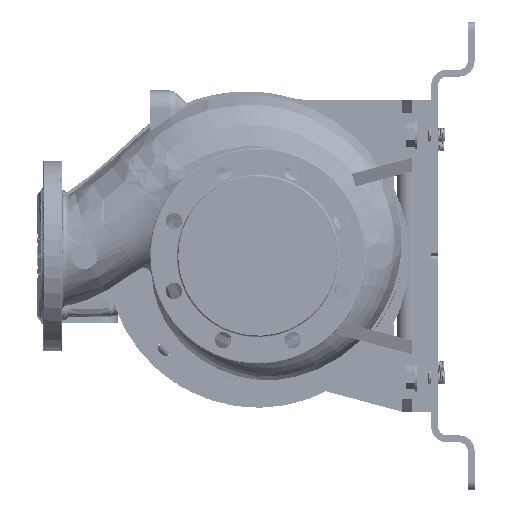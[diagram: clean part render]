
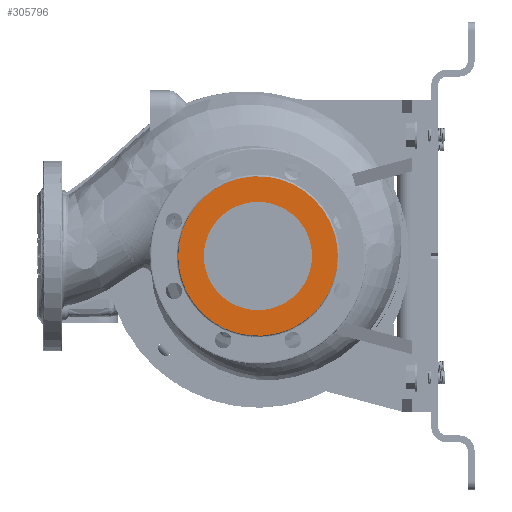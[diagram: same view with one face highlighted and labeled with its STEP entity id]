
A CAD part, left-side view. The second image highlights one B-rep face of the part: STEP entity #305796.
In plain terms, the highlighted planar face has unit normal (-1, 0, 0).
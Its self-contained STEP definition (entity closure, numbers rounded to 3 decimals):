
#2594 = CARTESIAN_POINT ( 'NONE',  ( -125., 32.548, -86.419 ) ) ;
#2649 = CARTESIAN_POINT ( 'NONE',  ( -125., -85.545, 35.434 ) ) ;
#5773 = CARTESIAN_POINT ( 'NONE',  ( -125., 91.704, -9.033 ) ) ;
#5817 = CARTESIAN_POINT ( 'NONE',  ( -125., 0., 0. ) ) ;
#9015 = DIRECTION ( 'NONE',  ( 0., 0., -1. ) ) ;
#9743 = ORIENTED_EDGE ( 'NONE', *, *, #303120, .F. ) ;
#17618 = EDGE_CURVE ( 'NONE', #166710, #287542, #93414, .T. ) ;
#20827 = AXIS2_PLACEMENT_3D ( 'NONE', #5817, #128923, #106509 ) ;
#21920 = DIRECTION ( 'NONE',  ( 0., 0., 1. ) ) ;
#23501 = CARTESIAN_POINT ( 'NONE',  ( -125., 0.001, 92.593 ) ) ;
#35002 = AXIS2_PLACEMENT_3D ( 'NONE', #240938, #141918, #21920 ) ;
#44374 = CARTESIAN_POINT ( 'NONE',  ( -125., 91.704, 9.033 ) ) ;
#47490 = CARTESIAN_POINT ( 'NONE',  ( -125., 74.163, 55.003 ) ) ;
#51617 = ORIENTED_EDGE ( 'NONE', *, *, #144566, .F. ) ;
#54878 = B_SPLINE_CURVE_WITH_KNOTS ( 'NONE', 3,
 ( #197581, #224789, #293746, #104850, #127329, #124186, #55375, #226350, #244035, #199157, #220051, #2594, #172126, #98551, #202302, #300088, #178385, #151311, #295370, #101687, #76180, #5773, #276028, #100125 ),
 .UNSPECIFIED., .F., .F.,
 ( 4, 1, 1, 1, 1, 1, 1, 1, 1, 1, 1, 1, 1, 1, 1, 1, 1, 1, 1, 1, 1, 4 ),
 ( 0., 0.018, 0.036, 0.054, 0.072, 0.091, 0.109, 0.127, 0.145, 0.163, 0.181, 0.19, 0.199, 0.208, 0.217, 0.231, 0.244, 0.254, 0.263, 0.272, 0.281, 0.29 ),
 .UNSPECIFIED. ) ;
#55375 = CARTESIAN_POINT ( 'NONE',  ( -125., -51.442, -76.988 ) ) ;
#55462 = FACE_OUTER_BOUND ( 'NONE', #236852, .T. ) ;
#65261 = CARTESIAN_POINT ( 'NONE',  ( -125., 92., 3.009 ) ) ;
#73077 = CARTESIAN_POINT ( 'NONE',  ( -125., 32.548, 86.419 ) ) ;
#76180 = CARTESIAN_POINT ( 'NONE',  ( -125., 90.377, -17.977 ) ) ;
#77803 = CARTESIAN_POINT ( 'NONE',  ( -125., 58.458, 71.231 ) ) ;
#93414 = B_SPLINE_CURVE_WITH_KNOTS ( 'NONE', 3,
 ( #186635, #65261, #44374, #170581, #316234, #103311, #97045, #47490, #197635, #77803, #200783, #298573, #73077, #266631, #23501, #169014, #199202, #145063, #221676, #295419, #2649, #242505, #218528, #292229 ),
 .UNSPECIFIED., .F., .F.,
 ( 4, 1, 1, 1, 1, 1, 1, 1, 1, 1, 1, 1, 1, 1, 1, 1, 1, 1, 1, 1, 1, 4 ),
 ( 0., 0.009, 0.018, 0.027, 0.036, 0.045, 0.059, 0.073, 0.082, 0.091, 0.1, 0.109, 0.127, 0.145, 0.163, 0.181, 0.199, 0.218, 0.236, 0.254, 0.272, 0.29 ),
 .UNSPECIFIED. ) ;
#97045 = CARTESIAN_POINT ( 'NONE',  ( -125., 80.624, 44.798 ) ) ;
#98551 = CARTESIAN_POINT ( 'NONE',  ( -125., 51.195, -76.618 ) ) ;
#100125 = CARTESIAN_POINT ( 'NONE',  ( -125., 92., 0. ) ) ;
#101687 = CARTESIAN_POINT ( 'NONE',  ( -125., 88.18, -26.749 ) ) ;
#103311 = CARTESIAN_POINT ( 'NONE',  ( -125., 85.133, 35.264 ) ) ;
#104850 = CARTESIAN_POINT ( 'NONE',  ( -125., -85.545, -35.434 ) ) ;
#106509 = DIRECTION ( 'NONE',  ( 0., 0., 1. ) ) ;
#124186 = CARTESIAN_POINT ( 'NONE',  ( -125., -65.473, -65.473 ) ) ;
#126227 = CARTESIAN_POINT ( 'NONE',  ( -125., 0., 62.5 ) ) ;
#127329 = CARTESIAN_POINT ( 'NONE',  ( -125., -76.988, -51.442 ) ) ;
#128134 = CIRCLE ( 'NONE', #20827, 62.5 ) ;
#128923 = DIRECTION ( 'NONE',  ( -1., 0., 0. ) ) ;
#141918 = DIRECTION ( 'NONE',  ( -1., 0., 0. ) ) ;
#144566 = EDGE_CURVE ( 'NONE', #287542, #166710, #54878, .T. ) ;
#145063 = CARTESIAN_POINT ( 'NONE',  ( -125., -51.442, 76.988 ) ) ;
#149792 = FACE_BOUND ( 'NONE', #249764, .T. ) ;
#151311 = CARTESIAN_POINT ( 'NONE',  ( -125., 80.624, -44.798 ) ) ;
#152992 = CARTESIAN_POINT ( 'NONE',  ( -125., -93.104, 93.203 ) ) ;
#166710 = VERTEX_POINT ( 'NONE', #298047 ) ;
#169014 = CARTESIAN_POINT ( 'NONE',  ( -125., -18.064, 90.814 ) ) ;
#170581 = CARTESIAN_POINT ( 'NONE',  ( -125., 90.377, 17.977 ) ) ;
#172126 = CARTESIAN_POINT ( 'NONE',  ( -125., 43.438, -81.267 ) ) ;
#178385 = CARTESIAN_POINT ( 'NONE',  ( -125., 74.163, -55.003 ) ) ;
#186635 = CARTESIAN_POINT ( 'NONE',  ( -125., 92., 0. ) ) ;
#197581 = CARTESIAN_POINT ( 'NONE',  ( -125., -92., 0. ) ) ;
#197635 = CARTESIAN_POINT ( 'NONE',  ( -125., 66.273, 64.149 ) ) ;
#199157 = CARTESIAN_POINT ( 'NONE',  ( -125., 0.001, -92.593 ) ) ;
#199202 = CARTESIAN_POINT ( 'NONE',  ( -125., -35.434, 85.545 ) ) ;
#200783 = CARTESIAN_POINT ( 'NONE',  ( -125., 51.195, 76.618 ) ) ;
#202302 = CARTESIAN_POINT ( 'NONE',  ( -125., 58.458, -71.231 ) ) ;
#203317 = CIRCLE ( 'NONE', #35002, 62.5 ) ;
#208377 = EDGE_CURVE ( 'NONE', #287265, #209400, #128134, .T. ) ;
#209400 = VERTEX_POINT ( 'NONE', #313723 ) ;
#218528 = CARTESIAN_POINT ( 'NONE',  ( -125., -92., 6.021 ) ) ;
#220051 = CARTESIAN_POINT ( 'NONE',  ( -125., 18.062, -90.815 ) ) ;
#221676 = CARTESIAN_POINT ( 'NONE',  ( -125., -65.473, 65.473 ) ) ;
#224789 = CARTESIAN_POINT ( 'NONE',  ( -125., -92., -6.021 ) ) ;
#226350 = CARTESIAN_POINT ( 'NONE',  ( -125., -35.434, -85.545 ) ) ;
#226444 = DIRECTION ( 'NONE',  ( 1., 0., 0. ) ) ;
#236852 = EDGE_LOOP ( 'NONE', ( #302029, #51617 ) ) ;
#240938 = CARTESIAN_POINT ( 'NONE',  ( -125., 0., 0. ) ) ;
#242505 = CARTESIAN_POINT ( 'NONE',  ( -125., -90.814, 18.064 ) ) ;
#244035 = CARTESIAN_POINT ( 'NONE',  ( -125., -18.064, -90.814 ) ) ;
#249764 = EDGE_LOOP ( 'NONE', ( #254781, #9743 ) ) ;
#253447 = CARTESIAN_POINT ( 'NONE',  ( -125., -92., 0. ) ) ;
#254781 = ORIENTED_EDGE ( 'NONE', *, *, #208377, .F. ) ;
#266631 = CARTESIAN_POINT ( 'NONE',  ( -125., 18.062, 90.815 ) ) ;
#271364 = PLANE ( 'NONE',  #272133 ) ;
#272133 = AXIS2_PLACEMENT_3D ( 'NONE', #152992, #226444, #9015 ) ;
#276028 = CARTESIAN_POINT ( 'NONE',  ( -125., 92., -3.009 ) ) ;
#287265 = VERTEX_POINT ( 'NONE', #126227 ) ;
#287542 = VERTEX_POINT ( 'NONE', #253447 ) ;
#292229 = CARTESIAN_POINT ( 'NONE',  ( -125., -92., 0. ) ) ;
#293746 = CARTESIAN_POINT ( 'NONE',  ( -125., -90.814, -18.064 ) ) ;
#295370 = CARTESIAN_POINT ( 'NONE',  ( -125., 85.133, -35.264 ) ) ;
#295419 = CARTESIAN_POINT ( 'NONE',  ( -125., -76.988, 51.442 ) ) ;
#298047 = CARTESIAN_POINT ( 'NONE',  ( -125., 92., 0. ) ) ;
#298573 = CARTESIAN_POINT ( 'NONE',  ( -125., 43.438, 81.267 ) ) ;
#300088 = CARTESIAN_POINT ( 'NONE',  ( -125., 66.273, -64.149 ) ) ;
#302029 = ORIENTED_EDGE ( 'NONE', *, *, #17618, .F. ) ;
#303120 = EDGE_CURVE ( 'NONE', #209400, #287265, #203317, .T. ) ;
#305796 = ADVANCED_FACE ( 'NONE', ( #149792, #55462 ), #271364, .F. ) ;
#313723 = CARTESIAN_POINT ( 'NONE',  ( -125., 0., -62.5 ) ) ;
#316234 = CARTESIAN_POINT ( 'NONE',  ( -125., 88.18, 26.749 ) ) ;
